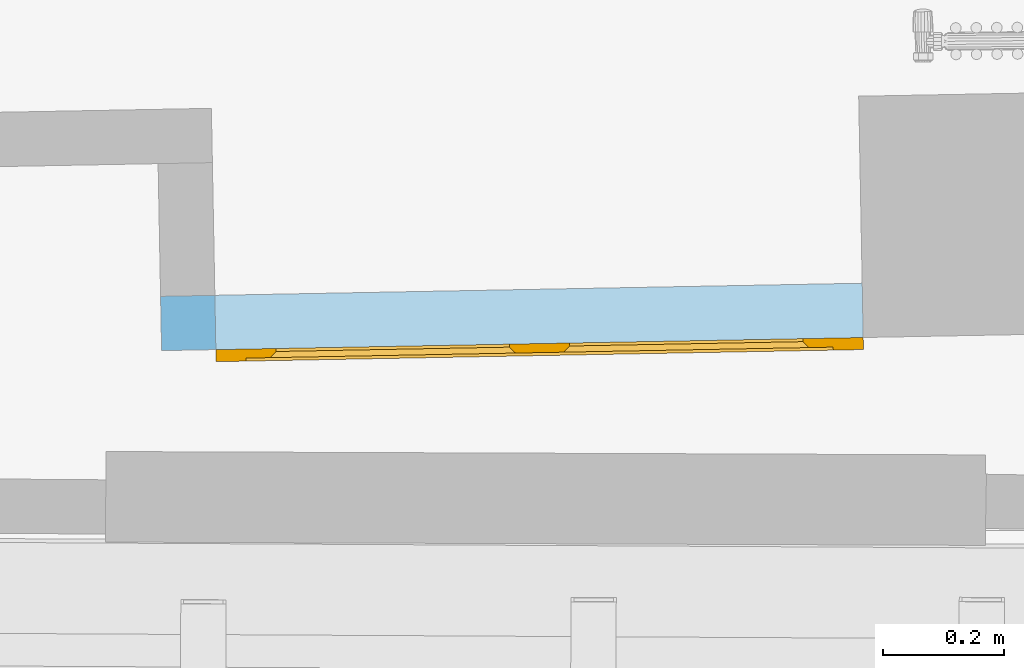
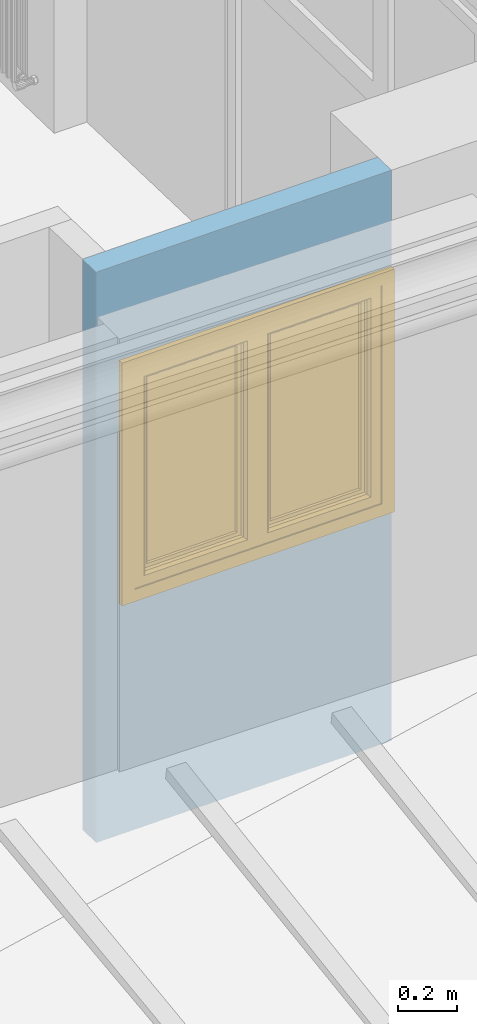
# One storey, part 43 of 72: 1 window, 1 opening, plus 1 element that does not belong to this part.
"""IFC2X3 building model written with IfcOpenShell, lengths in centimetres."""

from ifc_helpers import new_model, entity, si_unit, converted_unit, direction, frame, origin, origin_with_axes, origin_2d_with_axis, place, context, subcontext, project, spatial, polyline, rectangle, outline, extrude, faceted_brep, shape, source, transform, mapped, material, material_list, layer, layer_set, layer_usage, type_object, element, fill, save


model = new_model("IFC2X3")

# Units and contexts
model_context = context("Model", 3, precision=0.0001, world=origin(), true_north=direction((0.225632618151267, 0.974212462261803, 0.0)))
body_context = subcontext(model_context, "Body", "Model", "MODEL_VIEW")
footprint_context = subcontext(model_context, "FootPrint", "Model", "MODEL_VIEW")
profile_context = subcontext(model_context, "Profile", "Model", "MODEL_VIEW")
ifc_project = project(units=[si_unit("LENGTHUNIT", "METRE", prefix="CENTI"), si_unit("AREAUNIT", "SQUARE_METRE", prefix="CENTI"), si_unit("VOLUMEUNIT", "CUBIC_METRE", prefix="CENTI"), converted_unit("PLANEANGLEUNIT", "DEGREE", entity("IfcRatioMeasure", 0.0174532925), si_unit("PLANEANGLEUNIT", "RADIAN"), dimensions=[0, 0, 0, 0, 0, 0, 0])], contexts=[model_context])

# Site, building, storey
site_placement = place(None, origin_with_axes())
site = spatial("IfcSite", under=ifc_project, at=site_placement, Name="Default Site", CompositionType="ELEMENT")
building_placement = place(site_placement, origin_with_axes())
building = spatial("IfcBuilding", under=site, at=building_placement, Name="Default Building", CompositionType="ELEMENT")
storey_placement = place(building_placement, frame((0.0, 0.0, 853.910374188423), z_axis=(0.0, 0.0, 1.0), x_axis=(1.0, 0.0, 0.0)))
storey = spatial("IfcBuildingStorey", under=building, at=storey_placement, Name="Niveau 2", CompositionType="ELEMENT", Elevation=853.910374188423)

# Wall, opening, window
ifc_material_1 = material(Name="<aucun>")
ifc_layer = layer(ifc_material_1, 9.0)
ifc_layer_set = layer_set([ifc_layer], Name="default")
ifc_layer_usage = layer_usage(ifc_layer_set, "AXIS2", "POSITIVE", -4.5)
wall_type = type_object("IfcWallType", Name="default 90", PredefinedType="NOTDEFINED", material=ifc_layer_set)
wall_placement = place(storey_placement, frame((35.5624064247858, -709.909420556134, 1.4210854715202e-12), z_axis=(0.0, 0.0, 1.0), x_axis=(0.999825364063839, 0.0186880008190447, 0.0)))
wall = element("IfcWallStandardCase", 1, at=wall_placement, inside=storey, type_object=wall_type, material=ifc_layer_usage, Name="Enveloppe 467705", context=body_context, shape_type="SweptSolid", body=[
    extrude(rectangle(XDim=116.315319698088, YDim=9.00000000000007, at=origin_2d_with_axis()), frame((53.6576598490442, 8.88178419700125e-14, -3.5527136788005e-13), z_axis=(0.0, 0.0, 1.0), x_axis=(1.0, 5.20417042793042e-16, 0.0)), (0.0, 0.0, 1.0), 234.999999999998),
])
opening_placement = place(wall_placement, frame((4.50000000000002, 0.0, 95.4999999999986), z_axis=(0.0, 0.0, 1.0), x_axis=(1.0, 5.23886489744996e-16, 0.0)))
cartesian_point_1 = entity("IfcCartesianPoint", [5.55111512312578e-15, 8.88178419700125e-14, 100.0])
cartesian_point_2 = entity("IfcCartesianPoint", [107.315319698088, 4.50000000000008])
opening = element("IfcOpeningElement", 2, at=opening_placement, cuts=wall, Name="4294966446_11", ObjectType="Opening", shapes=[
    shape(body_context, "Body", "SweptSolid", [extrude(outline(polyline([(5.55111512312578e-15, 100.0), (5.55111512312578e-15, 0.0), (107.315319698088, 0.0), (107.315319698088, 100.0), (5.55111512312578e-15, 100.0)])), frame((0.0, 14.5, 0.0), z_axis=(0.0, -1.0, 0.0), x_axis=(1.0, 0.0, 0.0)), (0.0, 0.0, 1.0), 29.0)]),
    shape(profile_context, "Profile", "GeometricCurveSet", [entity("IfcGeometricCurveSet", [entity("IfcPolyline", [cartesian_point_1, entity("IfcCartesianPoint", [5.55111512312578e-15, 8.88178419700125e-14, 0.0]), entity("IfcCartesianPoint", [107.315319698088, 8.88178419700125e-14, 0.0]), entity("IfcCartesianPoint", [107.315319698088, 8.88178419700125e-14, 100.0]), cartesian_point_1])])]),
    shape(footprint_context, "FootPrint", "GeometricCurveSet", [entity("IfcGeometricCurveSet", [entity("IfcPolyline", [cartesian_point_2, entity("IfcCartesianPoint", [5.55111512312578e-15, 4.50000000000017]), entity("IfcCartesianPoint", [5.55111512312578e-15, -4.4999999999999]), entity("IfcCartesianPoint", [107.315319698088, -4.4999999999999]), cartesian_point_2])])]),
])
ifc_material_2 = material(Name="Transparent")
ifc_material_3 = material(Name="Jaune 255-255-0")
ifc_material_4 = material(Name="Aluminium satiné")
ifc_material_list = material_list([ifc_material_2, ifc_material_3, ifc_material_4])
window_style = type_object("IfcWindowStyle", Name="FN[R] 2VB[1V] MM", ConstructionType="NOTDEFINED", OperationType="DOUBLE_PANEL_VERTICAL", ParameterTakesPrecedence=True, Sizeable=False, material=ifc_material_list)
shared_shape = source(origin_with_axes(), body_context, "Body", "Brep", [
    faceted_brep([(-48.6576586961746, 94.9999988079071, -3.99999991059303), (-48.6576586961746, 94.9999988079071, 3.99999991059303), (-48.6576586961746, 5.00000007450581, 3.99999991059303), (-48.6576586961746, 5.00000007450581, -3.99999991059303), (-53.6576569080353, 100.0, 3.99999991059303), (-53.6576569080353, -1.11022302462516e-14, 3.99999991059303), (-53.6576569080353, 100.0, -3.99999991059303), (-53.6576569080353, -1.11022302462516e-14, -3.99999991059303), (48.6576586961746, 5.0000000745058, 3.99999991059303), (48.6576586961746, 5.0000000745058, -3.99999991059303), (53.6576569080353, -1.11022302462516e-14, 3.99999991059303), (48.6576586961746, 5.00000007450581, 3.99999991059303), (53.6576569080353, -1.11022302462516e-14, -3.99999991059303), (48.6576586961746, 5.00000007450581, -3.99999991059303), (48.6576586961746, 94.9999988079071, 3.99999991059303), (48.6576586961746, 94.9999988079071, -3.99999991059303), (53.6576569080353, 100.0, 3.99999991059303), (53.6576569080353, 100.0, -3.99999991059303)], [[[0, 1, 2, 3]], [[1, 4, 5, 2]], [[4, 6, 7, 5]], [[6, 0, 3, 7]], [[3, 2, 8, 9]], [[2, 5, 10, 11]], [[5, 7, 12, 10]], [[7, 3, 13, 12]], [[13, 11, 14, 15]], [[11, 10, 16, 14]], [[10, 12, 17, 16]], [[12, 13, 15, 17]], [[15, 14, 1, 0]], [[14, 16, 4, 1]], [[16, 17, 6, 4]], [[17, 15, 0, 6]]]),
    faceted_brep([(-44.6576595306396, 91.0000026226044, -3.50000001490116), (-43.6576600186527, 89.9999976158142, -2.50000050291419), (-43.6576600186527, 10.0000001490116, -2.50000050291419), (-44.6576595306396, 9.00000035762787, -3.50000001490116), (-43.657660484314, 89.9999976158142, -2.5000000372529), (-43.657660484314, 89.9999976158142, 3.50000001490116), (-43.657660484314, 10.0000001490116, 3.50000001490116), (-43.657660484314, 10.0000001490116, -2.5000000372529), (-48.6576586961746, 94.9999988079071, 3.50000001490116), (-48.6576586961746, 5.00000007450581, 3.50000001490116), (-48.6576586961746, 94.9999988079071, -3.50000001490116), (-48.6576586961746, 5.00000007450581, -3.50000001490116), (-43.657660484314, 10.0000002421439, -2.50000013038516), (-5.00000007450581, 10.0000002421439, -2.50000013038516), (-3.99999991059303, 9.00000035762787, -3.50000001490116), (-5.00000007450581, 10.0000001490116, 3.50000001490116), (-5.00000007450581, 10.0000001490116, -2.5000000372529), (2.77555756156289e-14, 5.00000007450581, 3.50000001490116), (2.77555756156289e-14, 5.00000007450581, -3.50000001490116), (-4.99999998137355, 10.0000001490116, -2.49999994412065), (-4.99999998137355, 89.9999976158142, -2.49999994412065), (-3.99999991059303, 91.0000026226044, -3.50000001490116), (-5.00000007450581, 89.9999976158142, 3.50000001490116), (-5.00000007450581, 89.9999976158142, -2.5000000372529), (3.33066907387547e-14, 94.9999988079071, 3.50000001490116), (3.33066909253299e-14, 94.9999988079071, -3.50000001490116), (3.33066909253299e-14, 94.9999988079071, 3.50000001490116), (3.33066907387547e-14, 94.9999988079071, -3.50000001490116), (-5.00000007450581, 90.0000001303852, -2.49999752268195), (-43.657660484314, 90.0000001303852, -2.49999752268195)], [[[0, 1, 2, 3]], [[4, 5, 6, 7]], [[5, 8, 9, 6]], [[8, 10, 11, 9]], [[10, 0, 3, 11]], [[3, 12, 13, 14]], [[7, 6, 15, 16]], [[6, 9, 17, 15]], [[9, 11, 18, 17]], [[11, 3, 14, 18]], [[14, 19, 20, 21]], [[16, 15, 22, 23]], [[15, 17, 24, 22]], [[17, 18, 25, 26]], [[18, 14, 21, 27]], [[21, 28, 29, 0]], [[23, 22, 5, 4]], [[22, 24, 8, 5]], [[24, 27, 10, 8]], [[27, 21, 0, 10]]]),
    faceted_brep([(-42.1576589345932, 88.4999990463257, -0.999999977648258), (-41.6576591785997, 87.9999995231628, -0.500000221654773), (-41.6576591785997, 11.9999997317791, -0.500000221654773), (-42.1576589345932, 11.5000002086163, -0.999999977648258), (-41.6576594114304, 87.9999995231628, -0.499999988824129), (-41.6576594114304, 87.9999995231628, 0.499999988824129), (-41.6576594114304, 11.9999997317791, 0.499999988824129), (-41.6576594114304, 11.9999997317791, -0.499999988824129), (-42.1576591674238, 88.4999990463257, 0.999999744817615), (-42.1576591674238, 11.5000002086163, 0.999999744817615), (-42.1576589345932, 88.4999990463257, 0.999999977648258), (-43.657660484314, 89.9999976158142, 0.999999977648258), (-43.657660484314, 10.0000001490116, 0.999999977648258), (-42.1576589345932, 11.5000002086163, 0.999999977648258), (-43.657660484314, 89.9999976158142, -0.999999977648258), (-43.657660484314, 10.0000001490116, -0.999999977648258), (-41.6576594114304, 11.9999999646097, -0.500000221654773), (-7.00000002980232, 11.9999999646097, -0.500000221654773), (-6.49999976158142, 11.5000002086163, -0.999999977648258), (-7.00000002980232, 11.9999997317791, 0.499999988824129), (-7.00000002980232, 11.9999997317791, -0.499999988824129), (-42.1576589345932, 11.4999999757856, 0.999999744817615), (-6.49999976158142, 11.4999999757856, 0.999999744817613), (-7.00000002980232, 11.9999997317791, 0.499999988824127), (-5.00000007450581, 10.0000001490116, 0.999999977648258), (-6.49999976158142, 11.5000002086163, 0.999999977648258), (-5.00000007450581, 10.0000001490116, -0.999999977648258), (-6.99999989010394, 11.9999997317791, -0.499999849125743), (-6.99999989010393, 87.9999995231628, -0.499999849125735), (-6.49999976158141, 88.4999990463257, -0.99999997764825), (-7.00000002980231, 87.9999995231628, 0.499999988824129), (-7.00000002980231, 87.9999995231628, -0.499999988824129), (-6.49999990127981, 11.5000002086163, 1.00000011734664), (-6.4999999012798, 88.4999990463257, 1.00000011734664), (-7.00000002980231, 87.9999995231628, 0.499999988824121), (-5.00000007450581, 89.9999976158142, 0.999999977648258), (-6.49999976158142, 88.4999990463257, 0.999999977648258), (-5.0000000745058, 89.9999976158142, -0.999999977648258), (-5.0000000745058, 89.9999976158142, 0.999999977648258), (-6.49999976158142, 88.4999990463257, -0.999999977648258), (-5.00000007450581, 89.9999976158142, -0.999999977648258), (-7.00000002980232, 87.9999992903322, -0.500000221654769), (-41.6576594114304, 87.9999992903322, -0.500000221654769), (-42.1576589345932, 88.4999990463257, -0.99999997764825), (-7.00000002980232, 87.9999995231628, -0.499999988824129), (-7.00000002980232, 87.9999995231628, 0.499999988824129), (-41.6576594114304, 87.9999995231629, 0.499999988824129), (-41.6576594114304, 87.9999995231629, -0.499999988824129), (-6.49999976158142, 88.4999992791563, 0.999999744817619), (-42.1576589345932, 88.4999992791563, 0.999999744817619)], [[[0, 1, 2, 3]], [[4, 5, 6, 7]], [[5, 8, 9, 6]], [[10, 11, 12, 13]], [[11, 14, 15, 12]], [[14, 0, 3, 15]], [[3, 16, 17, 18]], [[7, 6, 19, 20]], [[6, 21, 22, 23]], [[13, 12, 24, 25]], [[12, 15, 26, 24]], [[15, 3, 18, 26]], [[18, 27, 28, 29]], [[20, 19, 30, 31]], [[19, 32, 33, 34]], [[25, 24, 35, 36]], [[24, 26, 37, 38]], [[26, 18, 39, 40]], [[39, 41, 42, 43]], [[44, 45, 46, 47]], [[45, 48, 49, 5]], [[36, 35, 11, 10]], [[35, 40, 14, 11]], [[40, 39, 0, 14]]]),
    faceted_brep([(-7.00000002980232, 87.9999995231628, -0.499999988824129), (-7.00000002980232, 11.9999997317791, -0.499999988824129), (-41.6576594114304, 11.9999997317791, -0.499999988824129), (-41.6576594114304, 87.9999995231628, -0.499999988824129), (-41.6576594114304, 87.9999995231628, 0.499999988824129), (-41.6576594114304, 11.9999997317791, 0.499999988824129), (-7.00000002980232, 11.9999997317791, 0.499999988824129), (-7.00000002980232, 87.9999995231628, 0.499999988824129)], [[[0, 1, 2, 3]], [[4, 5, 6, 7]], [[3, 2, 5, 4]], [[2, 1, 6, 5]], [[1, 0, 7, 6]], [[0, 3, 4, 7]]]),
    faceted_brep([(3.99999991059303, 91.0000026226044, -3.50000001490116), (4.99999998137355, 89.9999976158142, -2.49999994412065), (4.99999998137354, 10.0000001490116, -2.49999994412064), (3.99999991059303, 9.00000035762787, -3.50000001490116), (5.00000007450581, 89.9999976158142, -2.5000000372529), (5.00000007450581, 89.9999976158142, 3.50000001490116), (5.0000000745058, 10.0000001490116, 3.50000001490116), (5.0000000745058, 10.0000001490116, -2.5000000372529), (3.33066907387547e-14, 94.9999988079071, 3.50000001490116), (2.77555756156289e-14, 5.00000007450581, 3.50000001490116), (5.00000007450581, 10.0000001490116, 3.50000001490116), (3.33066907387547e-14, 94.9999988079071, -3.50000001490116), (2.77555754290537e-14, 5.00000007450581, -3.50000001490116), (2.77555754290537e-14, 5.00000007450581, 3.50000001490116), (2.77555756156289e-14, 5.00000007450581, -3.50000001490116), (5.00000007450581, 10.0000002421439, -2.50000013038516), (43.657660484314, 10.0000002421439, -2.50000013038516), (44.6576595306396, 9.00000035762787, -3.50000001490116), (5.00000007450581, 10.0000001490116, -2.5000000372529), (43.657660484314, 10.0000001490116, 3.50000001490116), (43.657660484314, 10.0000001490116, -2.5000000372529), (48.6576586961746, 5.00000007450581, 3.50000001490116), (48.6576586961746, 5.00000007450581, -3.50000001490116), (43.6576600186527, 10.0000001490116, -2.50000050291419), (43.6576600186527, 89.9999976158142, -2.5000005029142), (44.6576595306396, 91.0000026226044, -3.50000001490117), (43.657660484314, 89.9999976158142, 3.50000001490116), (43.657660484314, 89.9999976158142, -2.5000000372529), (48.6576586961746, 94.9999988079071, 3.50000001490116), (48.6576586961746, 94.9999988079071, -3.50000001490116), (44.6576595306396, 91.0000026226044, -3.50000001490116), (43.657660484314, 90.0000001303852, -2.49999752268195), (5.00000007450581, 90.0000001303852, -2.49999752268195)], [[[0, 1, 2, 3]], [[4, 5, 6, 7]], [[5, 8, 9, 10]], [[8, 11, 12, 13]], [[11, 0, 3, 14]], [[3, 15, 16, 17]], [[18, 10, 19, 20]], [[10, 9, 21, 19]], [[9, 14, 22, 21]], [[14, 3, 17, 22]], [[17, 23, 24, 25]], [[20, 19, 26, 27]], [[19, 21, 28, 26]], [[21, 22, 29, 28]], [[22, 17, 30, 29]], [[30, 31, 32, 0]], [[27, 26, 5, 4]], [[26, 28, 8, 5]], [[28, 29, 11, 8]], [[29, 30, 0, 11]]]),
    faceted_brep([(4.50000017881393, 51.9999980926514, 3.50000001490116), (4.50000017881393, 47.9999989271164, 3.50000001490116), (0.499999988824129, 47.9999989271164, 3.50000001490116), (0.499999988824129, 51.9999980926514, 3.50000001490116), (0.499999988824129, 51.9999980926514, 4.30000014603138), (0.499999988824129, 47.9999989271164, 4.30000014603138), (4.50000017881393, 47.9999989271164, 4.30000014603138), (4.50000017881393, 51.9999980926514, 4.30000014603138)], [[[0, 1, 2, 3]], [[4, 5, 6, 7]], [[3, 2, 5, 4]], [[2, 1, 6, 5]], [[1, 0, 7, 6]], [[0, 3, 4, 7]]]),
    faceted_brep([(3.24999988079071, 50.4999995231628, 4.30000014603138), (3.24999988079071, 49.5000004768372, 4.30000014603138), (1.75000000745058, 49.5000004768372, 4.30000014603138), (1.75000000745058, 50.4999995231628, 4.30000014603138), (1.75000000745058, 50.4999995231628, 8.29999968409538), (1.75000000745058, 49.5000001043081, 7.30000026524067), (3.24999988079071, 49.5000001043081, 7.30000026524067), (3.24999988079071, 50.4999995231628, 8.29999968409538), (1.75000000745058, 49.5000004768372, 7.29999989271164), (3.24999988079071, 49.5000004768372, 7.29999989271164)], [[[0, 1, 2, 3]], [[4, 5, 6, 7]], [[3, 2, 8, 4]], [[2, 1, 9, 8]], [[1, 0, 7, 9]], [[0, 3, 4, 7]]]),
    faceted_brep([(3.24999988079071, 50.4999995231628, 8.29999968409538), (3.24999988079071, 49.5000001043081, 7.30000026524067), (1.75000000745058, 49.5000001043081, 7.30000026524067), (1.75000000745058, 50.4999995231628, 8.29999968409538), (1.75000000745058, 37.5, 8.29999968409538), (1.75000000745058, 37.5, 7.29999989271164), (3.24999988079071, 37.5, 7.29999989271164), (3.24999988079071, 37.5, 8.29999968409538), (1.75000000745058, 49.5000004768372, 7.29999989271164), (3.24999988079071, 49.5000004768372, 7.29999989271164)], [[[0, 1, 2, 3]], [[4, 5, 6, 7]], [[3, 8, 5, 4]], [[8, 9, 6, 5]], [[9, 0, 7, 6]], [[0, 3, 4, 7]]]),
    faceted_brep([(6.49999976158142, 88.4999990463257, -0.999999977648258), (6.99999989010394, 87.9999995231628, -0.499999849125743), (6.99999989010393, 11.9999997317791, -0.499999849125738), (6.49999976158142, 11.5000002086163, -0.999999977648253), (7.00000002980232, 87.9999995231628, -0.499999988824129), (7.00000002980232, 87.9999995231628, 0.499999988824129), (7.00000002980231, 11.9999997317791, 0.499999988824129), (7.00000002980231, 11.9999997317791, -0.499999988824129), (6.49999990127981, 88.4999990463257, 1.00000011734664), (6.4999999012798, 11.5000002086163, 1.00000011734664), (7.00000002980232, 11.9999997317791, 0.499999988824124), (6.49999976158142, 88.4999990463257, 0.999999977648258), (5.00000007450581, 89.9999976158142, 0.999999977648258), (5.00000007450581, 10.0000001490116, 0.999999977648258), (6.49999976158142, 11.5000002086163, 0.999999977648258), (5.00000007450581, 89.9999976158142, -0.999999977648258), (5.00000007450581, 10.0000001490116, -0.999999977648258), (6.49999976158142, 11.5000002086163, -0.999999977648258), (7.00000002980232, 11.9999999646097, -0.500000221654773), (41.6576594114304, 11.9999999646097, -0.500000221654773), (42.1576589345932, 11.5000002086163, -0.999999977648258), (7.00000002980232, 11.9999997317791, -0.499999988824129), (7.00000002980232, 11.9999997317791, 0.499999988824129), (41.6576594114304, 11.9999997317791, 0.499999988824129), (41.6576594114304, 11.9999997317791, -0.499999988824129), (6.49999976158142, 11.4999999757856, 0.999999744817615), (42.1576589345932, 11.4999999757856, 0.999999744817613), (41.6576594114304, 11.9999997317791, 0.499999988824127), (43.657660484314, 10.0000001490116, 0.999999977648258), (42.1576589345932, 11.5000002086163, 0.999999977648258), (43.657660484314, 10.0000001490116, -0.999999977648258), (41.6576591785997, 11.9999997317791, -0.500000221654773), (41.6576591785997, 87.9999995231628, -0.500000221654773), (42.1576589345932, 88.4999990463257, -0.999999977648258), (41.6576594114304, 87.9999995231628, 0.499999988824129), (41.6576594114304, 87.9999995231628, -0.499999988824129), (42.1576591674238, 11.5000002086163, 0.999999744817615), (42.1576591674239, 88.4999990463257, 0.999999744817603), (41.6576594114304, 87.9999995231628, 0.499999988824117), (43.657660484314, 89.9999976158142, 0.999999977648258), (42.1576589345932, 88.4999990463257, 0.999999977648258), (43.657660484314, 89.9999976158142, -0.999999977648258), (41.6576594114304, 87.9999992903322, -0.500000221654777), (7.00000002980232, 87.9999992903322, -0.500000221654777), (6.49999976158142, 88.4999990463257, -0.999999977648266), (42.1576589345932, 88.4999992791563, 0.999999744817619), (6.49999976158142, 88.4999992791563, 0.999999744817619)], [[[0, 1, 2, 3]], [[4, 5, 6, 7]], [[5, 8, 9, 10]], [[11, 12, 13, 14]], [[12, 15, 16, 13]], [[15, 0, 17, 16]], [[17, 18, 19, 20]], [[21, 22, 23, 24]], [[22, 25, 26, 27]], [[14, 13, 28, 29]], [[13, 16, 30, 28]], [[16, 17, 20, 30]], [[20, 31, 32, 33]], [[24, 23, 34, 35]], [[23, 36, 37, 38]], [[29, 28, 39, 40]], [[28, 30, 41, 39]], [[30, 20, 33, 41]], [[33, 42, 43, 44]], [[35, 34, 5, 4]], [[34, 45, 46, 5]], [[40, 39, 12, 11]], [[39, 41, 15, 12]], [[41, 33, 0, 15]]]),
    faceted_brep([(41.6576594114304, 87.9999995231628, -0.499999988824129), (41.6576594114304, 11.9999997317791, -0.499999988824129), (7.00000002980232, 11.9999997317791, -0.499999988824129), (7.00000002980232, 87.9999995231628, -0.499999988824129), (7.00000002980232, 87.9999995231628, 0.499999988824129), (7.00000002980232, 11.9999997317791, 0.499999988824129), (41.6576594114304, 11.9999997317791, 0.499999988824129), (41.6576594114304, 87.9999995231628, 0.499999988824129), (7.00000002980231, 11.9999997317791, -0.499999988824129), (7.00000002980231, 11.9999997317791, 0.499999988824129)], [[[0, 1, 2, 3]], [[4, 5, 6, 7]], [[3, 8, 9, 4]], [[2, 1, 6, 5]], [[1, 0, 7, 6]], [[0, 3, 4, 7]]]),
])
window_placement = place(opening_placement, frame((-2.1316282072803e-14, -6.50000000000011, 0.0), z_axis=(0.0, 0.0, 1.0), x_axis=(1.0, 0.0, 0.0)))
window = element("IfcWindow", 3, at=window_placement, inside=storey, type_object=window_style, material=ifc_material_list, Name="Fenêtre 158880", OverallHeight=100.0, OverallWidth=107.315319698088, context=body_context, shape_type="MappedRepresentation", body=[
    mapped(shared_shape, transform((53.6576598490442, 4.00000000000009, -1.77635683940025e-13), x_axis=(-1.0, 0.0, 0.0), y_axis=(0.0, 0.0, 1.0), z_axis=(0.0, 1.0, 0.0), scale=1.0, scale2=1.0, scale3=1.0, uniform=False)),
])
fill(opening, window)

save(model, "model.ifc")
